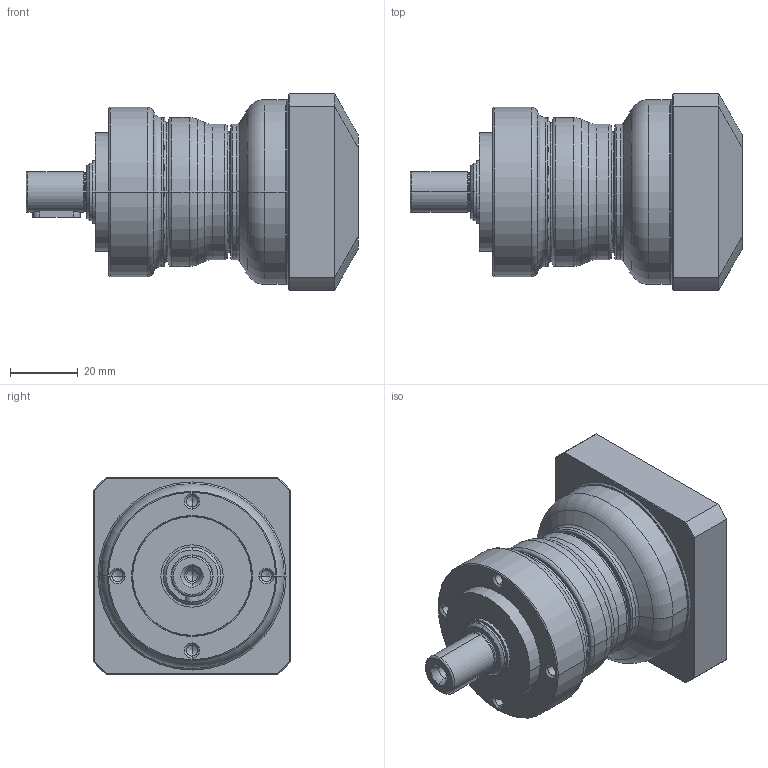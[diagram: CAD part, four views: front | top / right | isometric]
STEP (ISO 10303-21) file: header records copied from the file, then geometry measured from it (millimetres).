
FILE_DESCRIPTION((''),'2;1');
FILE_NAME('PE2-050_1ST_8-P0411100101_ASM','2017-05-25T',('d01943'),(''),'PRO/ENGINEER BY PARAMETRIC TECHNOLOGY CORPORATION, 2008410','PRO/ENGINEER BY PARAMETRIC TECHNOLOGY CORPORATION, 2008410','');
FILE_SCHEMA(('CONFIG_CONTROL_DESIGN'));
Length unit declared in the file: millimetre
Products named in the file (9): P1323100001; P0250100001; P1324100001; P0350101001; P0941100001; P0503100005; P0411100101; P1702300001; PE2-050_1ST_8-P0411100101_ASM
Assembly tree (8 placements, depth 2):
  PE2-050_1ST_8-P0411100101_ASM
    P1323100001
    P0250100001
    P1324100001
    P0350101001
    P0941100001
    P0503100005
    P0411100101
    P1702300001
Bounding box: 98 x 58 x 58 mm (x, y, z)
Volume: 123030.3 mm3; surface area: 46231.8 mm2
Topology: 8 solids, 8 shells, 444 faces, 998 edges, 576 vertices
Faces by surface type: cone 132, cylinder 130, torus 92, plane 74, bspline 16
Entity records: 17376 total; most frequent: CARTESIAN_POINT 7274, DIRECTION 2275, ORIENTED_EDGE 1940, AXIS2_PLACEMENT_3D 975, EDGE_CURVE 970, VERTEX_POINT 576, CIRCLE 530, EDGE_LOOP 502
